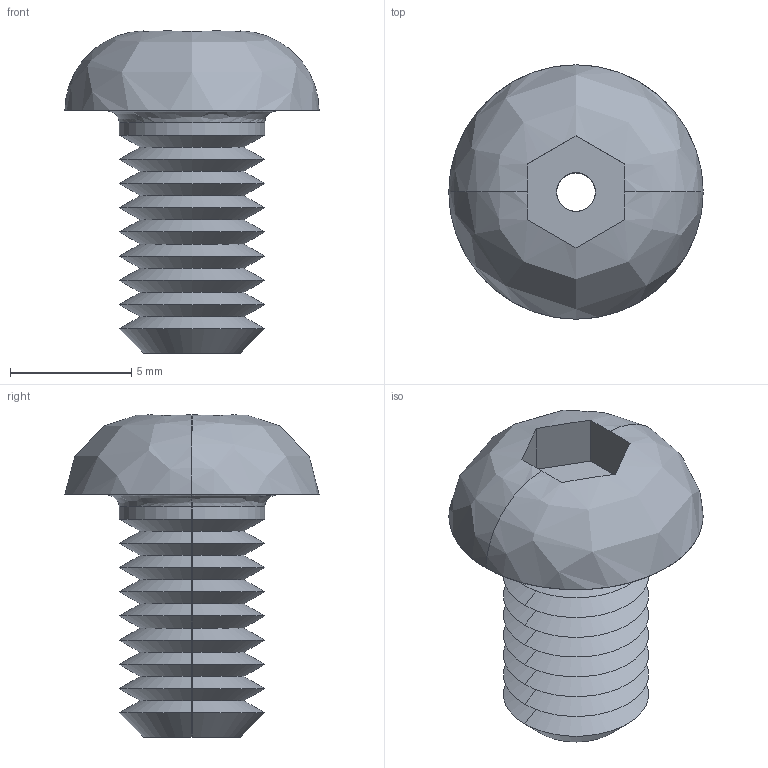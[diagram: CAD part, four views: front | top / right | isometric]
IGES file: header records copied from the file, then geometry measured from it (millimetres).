
Start section: SolidWorks IGES file using analytic representation for surfaces
Global section: file name: C:\Users\liam_\OneDrive\Documents\WORK\Work for WixRoyd\Job Files\J-00019 - Matt Davis CAD Checking\04. CAD Drawings\automotion20190605\P0094_v2\P0094_v2_20190712_IGES\P0094.060-010-A2.igs; native system: SolidWorks 2017; preprocessor: SolidWorks 2017; author: liam_; date: 190712.175454; units: millimetre
Bounding box: 10.5 x 10.5 x 13.3 mm (x, y, z)
Surface area: 591.1 mm2 (no closed solid volume)
Topology: 0 solids, 0 shells, 51 faces, 366 edges, 366 vertices
Faces by surface type: revolution 38, bspline 13
